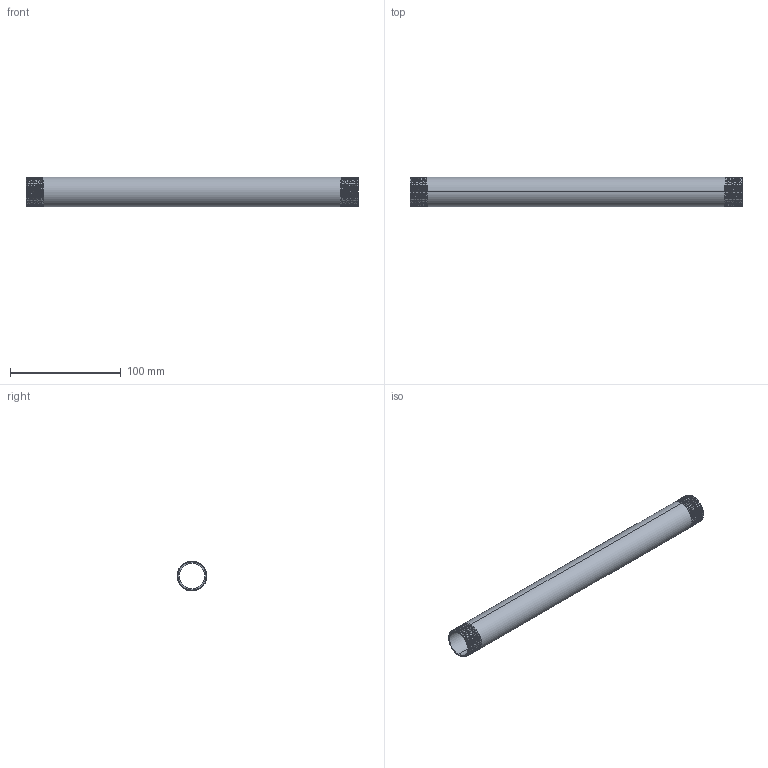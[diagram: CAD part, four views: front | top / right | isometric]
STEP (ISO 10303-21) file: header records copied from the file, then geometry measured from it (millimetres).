
FILE_DESCRIPTION (( 'STEP AP203' ), '1' );
FILE_NAME ('3D_R210_3-4x300_17185951.STEP', '2024-08-16T14:24:42', ( '' ), ( '' ), 'SwSTEP 2.0', 'SolidWorks 2024', '' );
FILE_SCHEMA (( 'CONFIG_CONTROL_DESIGN' ));
Length unit declared in the file: millimetre
Products named in the file (1): 3D_R210_3-4x300_17185951
Bounding box: 300 x 26.89 x 26.9 mm (x, y, z)
Volume: 45835.4 mm3; surface area: 48450.6 mm2
Topology: 1 solids, 1 shells, 68 faces, 192 edges, 126 vertices
Faces by surface type: cone 54, bspline 6, cylinder 4, plane 4
Entity records: 10627 total; most frequent: CARTESIAN_POINT 9037, ORIENTED_EDGE 384, DIRECTION 214, EDGE_CURVE 192, VERTEX_POINT 126, B_SPLINE_CURVE_WITH_KNOTS 108, AXIS2_PLACEMENT_3D 75, EDGE_LOOP 70
